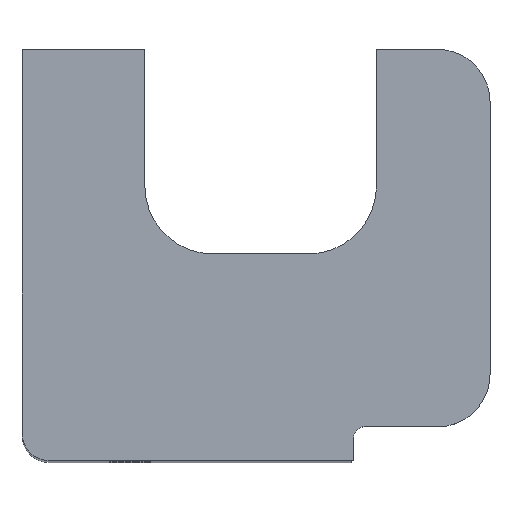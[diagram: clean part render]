
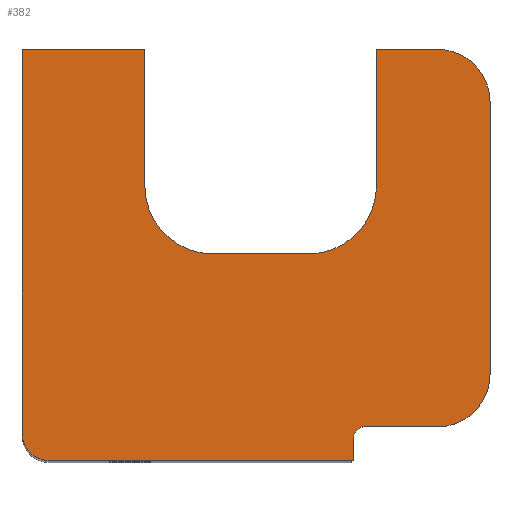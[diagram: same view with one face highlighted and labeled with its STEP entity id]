
A CAD part, top view. The second image highlights one B-rep face of the part: STEP entity #382.
In plain terms, the highlighted planar face has unit normal (0, 0, 1).
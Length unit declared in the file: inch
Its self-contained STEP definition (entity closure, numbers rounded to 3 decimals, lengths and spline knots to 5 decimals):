
#33 = ORIENTED_EDGE ( 'NONE', *, *, #1195, .T. ) ;
#35 = ORIENTED_EDGE ( 'NONE', *, *, #1014, .T. ) ;
#42 = EDGE_CURVE ( 'NONE', #791, #713, #1010, .T. ) ;
#66 = VECTOR ( 'NONE', #175, 39.37008 ) ;
#100 = ORIENTED_EDGE ( 'NONE', *, *, #42, .T. ) ;
#120 = ORIENTED_EDGE ( 'NONE', *, *, #1851, .T. ) ;
#126 = VERTEX_POINT ( 'NONE', #383 ) ;
#133 = CARTESIAN_POINT ( 'NONE',  ( 0.99, -0.625, 5.375 ) ) ;
#145 = EDGE_CURVE ( 'NONE', #555, #354, #554, .T. ) ;
#153 = VERTEX_POINT ( 'NONE', #1781 ) ;
#154 = ORIENTED_EDGE ( 'NONE', *, *, #145, .T. ) ;
#163 = VECTOR ( 'NONE', #223, 39.37008 ) ;
#168 = DIRECTION ( 'NONE',  ( 0., 0., 1. ) ) ;
#175 = DIRECTION ( 'NONE',  ( -1., 0., 0. ) ) ;
#180 = DIRECTION ( 'NONE',  ( 0., 0., -1. ) ) ;
#210 = LINE ( 'NONE', #954, #163 ) ;
#211 = EDGE_CURVE ( 'NONE', #153, #1857, #1421, .T. ) ;
#217 = VERTEX_POINT ( 'NONE', #1927 ) ;
#223 = DIRECTION ( 'NONE',  ( 0., -1., 0. ) ) ;
#234 = EDGE_CURVE ( 'NONE', #217, #917, #835, .T. ) ;
#245 = CARTESIAN_POINT ( 'NONE',  ( -1.155, 0.865, 5.375 ) ) ;
#247 = EDGE_CURVE ( 'NONE', #713, #555, #600, .T. ) ;
#252 = DIRECTION ( 'NONE',  ( 0., 0., -1. ) ) ;
#263 = ORIENTED_EDGE ( 'NONE', *, *, #1579, .T. ) ;
#265 = ORIENTED_EDGE ( 'NONE', *, *, #211, .T. ) ;
#274 = CIRCLE ( 'NONE', #632, 0.24 ) ;
#278 = DIRECTION ( 'NONE',  ( 0., 1., 0. ) ) ;
#309 = CARTESIAN_POINT ( 'NONE',  ( -1.03, -1.02, 5.375 ) ) ;
#314 = CARTESIAN_POINT ( 'NONE',  ( 0.365, -1.02, 5.375 ) ) ;
#354 = VERTEX_POINT ( 'NONE', #1958 ) ;
#356 = CARTESIAN_POINT ( 'NONE',  ( -1.03, -1.02, 5.375 ) ) ;
#367 = DIRECTION ( 'NONE',  ( 0., 0., 1. ) ) ;
#377 = CARTESIAN_POINT ( 'NONE',  ( 0.41437, -0.91437, 5.375 ) ) ;
#382 = ADVANCED_FACE ( 'NONE', ( #1056 ), #431, .T. ) ;
#383 = CARTESIAN_POINT ( 'NONE',  ( -1.155, -0.895, 5.375 ) ) ;
#389 = AXIS2_PLACEMENT_3D ( 'NONE', #804, #1149, #1448 ) ;
#398 = DIRECTION ( 'NONE',  ( 1., 0., 0. ) ) ;
#400 = ORIENTED_EDGE ( 'NONE', *, *, #914, .T. ) ;
#403 = ORIENTED_EDGE ( 'NONE', *, *, #796, .T. ) ;
#413 = VECTOR ( 'NONE', #415, 39.37008 ) ;
#415 = DIRECTION ( 'NONE',  ( 0., -1., 0. ) ) ;
#416 = CARTESIAN_POINT ( 'NONE',  ( 0.365, -1.02, 5.375 ) ) ;
#420 = CARTESIAN_POINT ( 'NONE',  ( 0.99, 0.625, 5.375 ) ) ;
#429 = CIRCLE ( 'NONE', #1717, 0.3125 ) ;
#431 = PLANE ( 'NONE',  #1754 ) ;
#462 = DIRECTION ( 'NONE',  ( 1., 0., 0. ) ) ;
#504 = CARTESIAN_POINT ( 'NONE',  ( -1.155, 0.865, 5.375 ) ) ;
#540 = VERTEX_POINT ( 'NONE', #1590 ) ;
#554 = CIRCLE ( 'NONE', #1272, 0.04937 ) ;
#555 = VERTEX_POINT ( 'NONE', #814 ) ;
#565 = DIRECTION ( 'NONE',  ( 0., 1., 0. ) ) ;
#594 = CARTESIAN_POINT ( 'NONE',  ( 0.75, -0.865, 5.375 ) ) ;
#600 = LINE ( 'NONE', #416, #783 ) ;
#632 = AXIS2_PLACEMENT_3D ( 'NONE', #1715, #773, #1089 ) ;
#713 = VERTEX_POINT ( 'NONE', #314 ) ;
#732 = VECTOR ( 'NONE', #1614, 39.37008 ) ;
#773 = DIRECTION ( 'NONE',  ( 0., 0., 1. ) ) ;
#783 = VECTOR ( 'NONE', #565, 39.37008 ) ;
#791 = VERTEX_POINT ( 'NONE', #309 ) ;
#796 = EDGE_CURVE ( 'NONE', #354, #1210, #1180, .T. ) ;
#804 = CARTESIAN_POINT ( 'NONE',  ( 0.1575, 0.24, 5.375 ) ) ;
#814 = CARTESIAN_POINT ( 'NONE',  ( 0.365, -0.91437, 5.375 ) ) ;
#824 = VECTOR ( 'NONE', #278, 39.37008 ) ;
#832 = AXIS2_PLACEMENT_3D ( 'NONE', #1741, #367, #1893 ) ;
#835 = LINE ( 'NONE', #1170, #1207 ) ;
#845 = AXIS2_PLACEMENT_3D ( 'NONE', #1337, #1799, #1639 ) ;
#914 = EDGE_CURVE ( 'NONE', #1210, #1829, #274, .T. ) ;
#917 = VERTEX_POINT ( 'NONE', #1866 ) ;
#954 = CARTESIAN_POINT ( 'NONE',  ( -0.5925, 0.865, 5.375 ) ) ;
#1010 = LINE ( 'NONE', #356, #732 ) ;
#1014 = EDGE_CURVE ( 'NONE', #126, #791, #1250, .T. ) ;
#1054 = LINE ( 'NONE', #1573, #1787 ) ;
#1056 = FACE_OUTER_BOUND ( 'NONE', #1905, .T. ) ;
#1065 = ORIENTED_EDGE ( 'NONE', *, *, #234, .F. ) ;
#1067 = CARTESIAN_POINT ( 'NONE',  ( 0.41437, -0.91437, 5.375 ) ) ;
#1069 = DIRECTION ( 'NONE',  ( 1., 0., 0. ) ) ;
#1087 = EDGE_CURVE ( 'NONE', #1554, #1144, #210, .T. ) ;
#1089 = DIRECTION ( 'NONE',  ( -1., 0., 0. ) ) ;
#1092 = EDGE_CURVE ( 'NONE', #540, #1139, #1054, .T. ) ;
#1139 = VERTEX_POINT ( 'NONE', #1777 ) ;
#1144 = VERTEX_POINT ( 'NONE', #1904 ) ;
#1149 = DIRECTION ( 'NONE',  ( 0., 0., -1. ) ) ;
#1164 = ORIENTED_EDGE ( 'NONE', *, *, #1360, .T. ) ;
#1170 = CARTESIAN_POINT ( 'NONE',  ( -0.5925, -0.0725, 5.375 ) ) ;
#1180 = LINE ( 'NONE', #594, #1663 ) ;
#1195 = EDGE_CURVE ( 'NONE', #1693, #126, #1848, .T. ) ;
#1207 = VECTOR ( 'NONE', #1328, 39.37008 ) ;
#1210 = VERTEX_POINT ( 'NONE', #1498 ) ;
#1235 = CARTESIAN_POINT ( 'NONE',  ( 0.75, 0.865, 5.375 ) ) ;
#1250 = CIRCLE ( 'NONE', #832, 0.125 ) ;
#1256 = ORIENTED_EDGE ( 'NONE', *, *, #247, .T. ) ;
#1272 = AXIS2_PLACEMENT_3D ( 'NONE', #377, #252, #398 ) ;
#1285 = CARTESIAN_POINT ( 'NONE',  ( -0.5925, 0.865, 5.375 ) ) ;
#1309 = DIRECTION ( 'NONE',  ( 0., 1., 0. ) ) ;
#1328 = DIRECTION ( 'NONE',  ( 1., 0., 0. ) ) ;
#1337 = CARTESIAN_POINT ( 'NONE',  ( 0.75, 0.625, 5.375 ) ) ;
#1360 = EDGE_CURVE ( 'NONE', #1857, #1139, #1686, .T. ) ;
#1376 = ORIENTED_EDGE ( 'NONE', *, *, #1087, .F. ) ;
#1399 = ORIENTED_EDGE ( 'NONE', *, *, #1092, .F. ) ;
#1404 = ORIENTED_EDGE ( 'NONE', *, *, #1846, .T. ) ;
#1421 = CIRCLE ( 'NONE', #845, 0.24 ) ;
#1448 = DIRECTION ( 'NONE',  ( 1., 0., 0. ) ) ;
#1472 = LINE ( 'NONE', #420, #824 ) ;
#1484 = CARTESIAN_POINT ( 'NONE',  ( -1.155, 0.865, 5.375 ) ) ;
#1498 = CARTESIAN_POINT ( 'NONE',  ( 0.75, -0.865, 5.375 ) ) ;
#1554 = VERTEX_POINT ( 'NONE', #1285 ) ;
#1573 = CARTESIAN_POINT ( 'NONE',  ( 0.47, 0.865, 5.375 ) ) ;
#1579 = EDGE_CURVE ( 'NONE', #540, #917, #1785, .T. ) ;
#1590 = CARTESIAN_POINT ( 'NONE',  ( 0.47, 0.24, 5.375 ) ) ;
#1605 = EDGE_CURVE ( 'NONE', #1554, #1693, #1959, .T. ) ;
#1614 = DIRECTION ( 'NONE',  ( 1., 0., 0. ) ) ;
#1639 = DIRECTION ( 'NONE',  ( -1., 0., 0. ) ) ;
#1663 = VECTOR ( 'NONE', #1069, 39.37008 ) ;
#1681 = CARTESIAN_POINT ( 'NONE',  ( -1.155, 0.865, 5.375 ) ) ;
#1686 = LINE ( 'NONE', #1681, #66 ) ;
#1691 = DIRECTION ( 'NONE',  ( 1., 0., 0. ) ) ;
#1693 = VERTEX_POINT ( 'NONE', #245 ) ;
#1702 = CARTESIAN_POINT ( 'NONE',  ( -0.28, 0.24, 5.375 ) ) ;
#1715 = CARTESIAN_POINT ( 'NONE',  ( 0.75, -0.625, 5.375 ) ) ;
#1717 = AXIS2_PLACEMENT_3D ( 'NONE', #1702, #180, #462 ) ;
#1741 = CARTESIAN_POINT ( 'NONE',  ( -1.03, -0.895, 5.375 ) ) ;
#1753 = DIRECTION ( 'NONE',  ( -1., 0., 0. ) ) ;
#1754 = AXIS2_PLACEMENT_3D ( 'NONE', #1067, #168, #1691 ) ;
#1777 = CARTESIAN_POINT ( 'NONE',  ( 0.47, 0.865, 5.375 ) ) ;
#1781 = CARTESIAN_POINT ( 'NONE',  ( 0.99, 0.625, 5.375 ) ) ;
#1785 = CIRCLE ( 'NONE', #389, 0.3125 ) ;
#1787 = VECTOR ( 'NONE', #1309, 39.37008 ) ;
#1799 = DIRECTION ( 'NONE',  ( 0., 0., 1. ) ) ;
#1829 = VERTEX_POINT ( 'NONE', #133 ) ;
#1846 = EDGE_CURVE ( 'NONE', #1829, #153, #1472, .T. ) ;
#1848 = LINE ( 'NONE', #1484, #413 ) ;
#1851 = EDGE_CURVE ( 'NONE', #217, #1144, #429, .T. ) ;
#1857 = VERTEX_POINT ( 'NONE', #1235 ) ;
#1858 = ORIENTED_EDGE ( 'NONE', *, *, #1605, .T. ) ;
#1866 = CARTESIAN_POINT ( 'NONE',  ( 0.1575, -0.0725, 5.375 ) ) ;
#1893 = DIRECTION ( 'NONE',  ( 1., 0., 0. ) ) ;
#1904 = CARTESIAN_POINT ( 'NONE',  ( -0.5925, 0.24, 5.375 ) ) ;
#1905 = EDGE_LOOP ( 'NONE', ( #1376, #1858, #33, #35, #100, #1256, #154, #403, #400, #1404, #265, #1164, #1399, #263, #1065, #120 ) ) ;
#1918 = VECTOR ( 'NONE', #1753, 39.37008 ) ;
#1927 = CARTESIAN_POINT ( 'NONE',  ( -0.28, -0.0725, 5.375 ) ) ;
#1958 = CARTESIAN_POINT ( 'NONE',  ( 0.41437, -0.865, 5.375 ) ) ;
#1959 = LINE ( 'NONE', #504, #1918 ) ;
